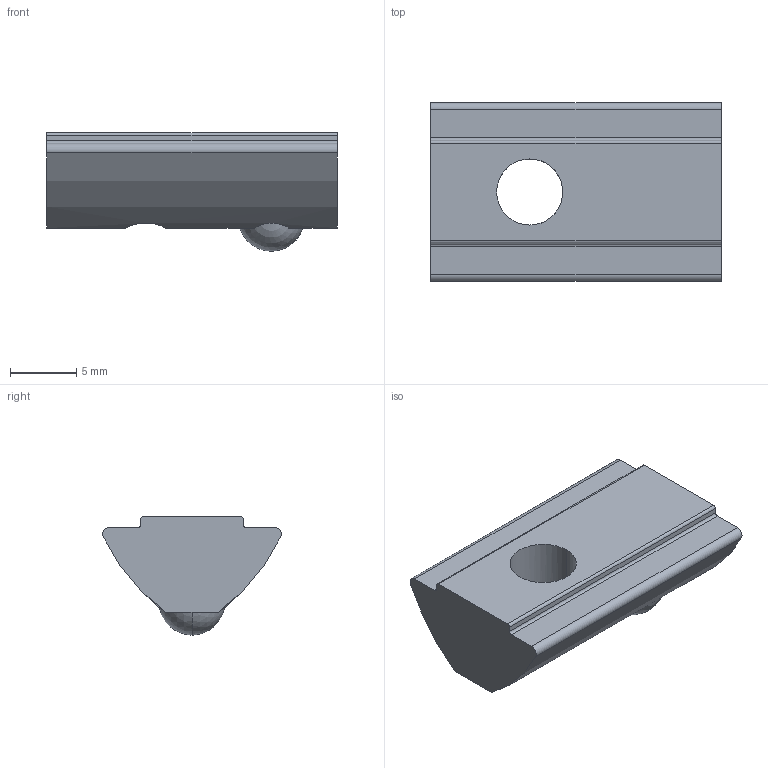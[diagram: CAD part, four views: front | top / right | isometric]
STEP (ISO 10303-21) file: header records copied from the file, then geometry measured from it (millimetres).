
FILE_DESCRIPTION (( 'STEP AP203' ), '1' );
FILE_NAME ('0108NSM6ST.STEP', '2024-03-05T08:59:37', ( 'Windows-Benutzer' ), ( '' ), 'SwSTEP 2.0', 'SolidWorks 2023', '' );
FILE_SCHEMA (( 'CONFIG_CONTROL_DESIGN' ));
Length unit declared in the file: millimetre
Products named in the file (1): 0108NSM6ST
Bounding box: 22 x 13.5 x 8.95 mm (x, y, z)
Volume: 1413.5 mm3; surface area: 984.5 mm2
Topology: 1 solids, 1 shells, 22 faces, 64 edges, 43 vertices
Faces by surface type: cylinder 10, plane 10, sphere 2
Entity records: 873 total; most frequent: CARTESIAN_POINT 186, DIRECTION 134, ORIENTED_EDGE 128, EDGE_CURVE 64, AXIS2_PLACEMENT_3D 51, VERTEX_POINT 43, LINE 32, VECTOR 32
